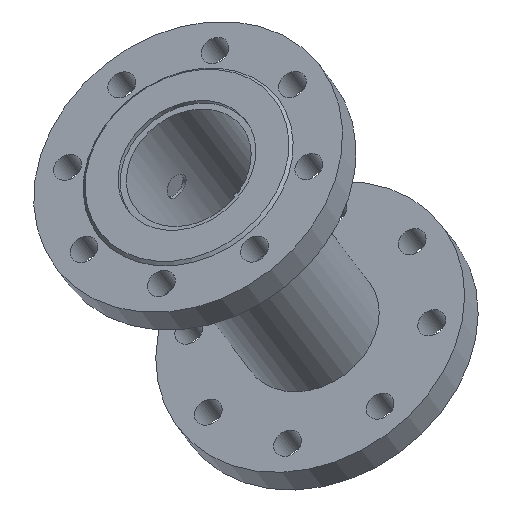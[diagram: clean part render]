
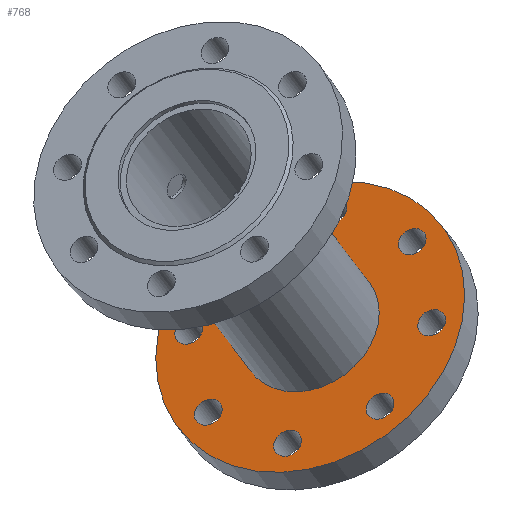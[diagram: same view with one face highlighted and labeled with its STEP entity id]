
A CAD part, isometric view. The second image highlights one B-rep face of the part: STEP entity #768.
In plain terms, the highlighted planar face has unit normal (-0.522, 0, 0.853) as drawn and (0, 0, -1) by its records, which use the part's own axes.
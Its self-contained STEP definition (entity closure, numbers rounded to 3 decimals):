
#768 = ADVANCED_FACE( '', ( #1596, #1597, #1598, #1599, #1600, #1601, #1602, #1603, #1604, #1605 ), #1606, .T. );
#1596 = FACE_BOUND( '', #5107, .T. );
#1597 = FACE_BOUND( '', #5108, .T. );
#1598 = FACE_BOUND( '', #5109, .T. );
#1599 = FACE_BOUND( '', #5110, .T. );
#1600 = FACE_BOUND( '', #5111, .T. );
#1601 = FACE_BOUND( '', #5112, .T. );
#1602 = FACE_BOUND( '', #5113, .T. );
#1603 = FACE_BOUND( '', #5114, .T. );
#1604 = FACE_BOUND( '', #5115, .T. );
#1605 = FACE_OUTER_BOUND( '', #5116, .T. );
#1606 = PLANE( '', #5117 );
#5107 = EDGE_LOOP( '', ( #7183 ) );
#5108 = EDGE_LOOP( '', ( #7184 ) );
#5109 = EDGE_LOOP( '', ( #7185 ) );
#5110 = EDGE_LOOP( '', ( #7186 ) );
#5111 = EDGE_LOOP( '', ( #7187 ) );
#5112 = EDGE_LOOP( '', ( #7188 ) );
#5113 = EDGE_LOOP( '', ( #7189 ) );
#5114 = EDGE_LOOP( '', ( #7190 ) );
#5115 = EDGE_LOOP( '', ( #7191 ) );
#5116 = EDGE_LOOP( '', ( #7192 ) );
#5117 = AXIS2_PLACEMENT_3D( '', #7193, #7194, #7195 );
#7183 = ORIENTED_EDGE( '', *, *, #8534, .F. );
#7184 = ORIENTED_EDGE( '', *, *, #8610, .F. );
#7185 = ORIENTED_EDGE( '', *, *, #8611, .F. );
#7186 = ORIENTED_EDGE( '', *, *, #8532, .F. );
#7187 = ORIENTED_EDGE( '', *, *, #8605, .F. );
#7188 = ORIENTED_EDGE( '', *, *, #8612, .F. );
#7189 = ORIENTED_EDGE( '', *, *, #8343, .F. );
#7190 = ORIENTED_EDGE( '', *, *, #8600, .F. );
#7191 = ORIENTED_EDGE( '', *, *, #8229, .T. );
#7192 = ORIENTED_EDGE( '', *, *, #8613, .F. );
#7193 = CARTESIAN_POINT( '', ( 44.65, 0., 0. ) );
#7194 = DIRECTION( '', ( 0., 0., -1. ) );
#7195 = DIRECTION( '', ( -1., 0., 0. ) );
#8229 = EDGE_CURVE( '', #9220, #9220, #9221, .T. );
#8343 = EDGE_CURVE( '', #9396, #9396, #9397, .T. );
#8532 = EDGE_CURVE( '', #9659, #9659, #9660, .T. );
#8534 = EDGE_CURVE( '', #9662, #9662, #9663, .T. );
#8600 = EDGE_CURVE( '', #9749, #9749, #9750, .T. );
#8605 = EDGE_CURVE( '', #9756, #9756, #9757, .T. );
#8610 = EDGE_CURVE( '', #9762, #9762, #9763, .T. );
#8611 = EDGE_CURVE( '', #9764, #9764, #9765, .T. );
#8612 = EDGE_CURVE( '', #9766, #9766, #9767, .T. );
#8613 = EDGE_CURVE( '', #9768, #9768, #9769, .T. );
#9220 = VERTEX_POINT( '', #10992 );
#9221 = CIRCLE( '', #10993, 44.65 );
#9396 = VERTEX_POINT( '', #11315 );
#9397 = CIRCLE( '', #11316, 9. );
#9659 = VERTEX_POINT( '', #12058 );
#9660 = CIRCLE( '', #12059, 9. );
#9662 = VERTEX_POINT( '', #12061 );
#9663 = CIRCLE( '', #12062, 9. );
#9749 = VERTEX_POINT( '', #12267 );
#9750 = CIRCLE( '', #12268, 9. );
#9756 = VERTEX_POINT( '', #12274 );
#9757 = CIRCLE( '', #12275, 9. );
#9762 = VERTEX_POINT( '', #12280 );
#9763 = CIRCLE( '', #12281, 9. );
#9764 = VERTEX_POINT( '', #12282 );
#9765 = CIRCLE( '', #12283, 9. );
#9766 = VERTEX_POINT( '', #12284 );
#9767 = CIRCLE( '', #12285, 9. );
#9768 = VERTEX_POINT( '', #12286 );
#9769 = CIRCLE( '', #12287, 100. );
#10992 = CARTESIAN_POINT( '', ( 44.65, 0., 0. ) );
#10993 = AXIS2_PLACEMENT_3D( '', #13048, #13049, #13050 );
#11315 = CARTESIAN_POINT( '', ( -9., 80., 0. ) );
#11316 = AXIS2_PLACEMENT_3D( '', #13241, #13242, #13243 );
#12058 = CARTESIAN_POINT( '', ( 47.569, -56.569, 0. ) );
#12059 = AXIS2_PLACEMENT_3D( '', #13486, #13487, #13488 );
#12061 = CARTESIAN_POINT( '', ( -89., 0., 0. ) );
#12062 = AXIS2_PLACEMENT_3D( '', #13489, #13490, #13491 );
#12267 = CARTESIAN_POINT( '', ( -65.569, 56.569, 0. ) );
#12268 = AXIS2_PLACEMENT_3D( '', #13562, #13563, #13564 );
#12274 = CARTESIAN_POINT( '', ( 71., 0., 0. ) );
#12275 = AXIS2_PLACEMENT_3D( '', #13568, #13569, #13570 );
#12280 = CARTESIAN_POINT( '', ( -65.569, -56.569, 0. ) );
#12281 = AXIS2_PLACEMENT_3D( '', #13574, #13575, #13576 );
#12282 = CARTESIAN_POINT( '', ( -9., -80., 0. ) );
#12283 = AXIS2_PLACEMENT_3D( '', #13577, #13578, #13579 );
#12284 = CARTESIAN_POINT( '', ( 47.569, 56.569, 0. ) );
#12285 = AXIS2_PLACEMENT_3D( '', #13580, #13581, #13582 );
#12286 = CARTESIAN_POINT( '', ( 100., 0., 0. ) );
#12287 = AXIS2_PLACEMENT_3D( '', #13583, #13584, #13585 );
#13048 = CARTESIAN_POINT( '', ( 0., 0., 0. ) );
#13049 = DIRECTION( '', ( 0., 0., 1. ) );
#13050 = DIRECTION( '', ( 1., 0., 0. ) );
#13241 = CARTESIAN_POINT( '', ( 0., 80., 0. ) );
#13242 = DIRECTION( '', ( 0., 0., -1. ) );
#13243 = DIRECTION( '', ( -1., 0., 0. ) );
#13486 = CARTESIAN_POINT( '', ( 56.569, -56.569, 0. ) );
#13487 = DIRECTION( '', ( 0., 0., -1. ) );
#13488 = DIRECTION( '', ( -1., 0., 0. ) );
#13489 = CARTESIAN_POINT( '', ( -80., 0., 0. ) );
#13490 = DIRECTION( '', ( 0., 0., -1. ) );
#13491 = DIRECTION( '', ( -1., 0., 0. ) );
#13562 = CARTESIAN_POINT( '', ( -56.569, 56.569, 0. ) );
#13563 = DIRECTION( '', ( 0., 0., -1. ) );
#13564 = DIRECTION( '', ( -1., 0., 0. ) );
#13568 = CARTESIAN_POINT( '', ( 80., 0., 0. ) );
#13569 = DIRECTION( '', ( 0., 0., -1. ) );
#13570 = DIRECTION( '', ( -1., 0., 0. ) );
#13574 = CARTESIAN_POINT( '', ( -56.569, -56.569, 0. ) );
#13575 = DIRECTION( '', ( 0., 0., -1. ) );
#13576 = DIRECTION( '', ( -1., 0., 0. ) );
#13577 = CARTESIAN_POINT( '', ( 0., -80., 0. ) );
#13578 = DIRECTION( '', ( 0., 0., -1. ) );
#13579 = DIRECTION( '', ( -1., 0., 0. ) );
#13580 = CARTESIAN_POINT( '', ( 56.569, 56.569, 0. ) );
#13581 = DIRECTION( '', ( 0., 0., -1. ) );
#13582 = DIRECTION( '', ( -1., 0., 0. ) );
#13583 = CARTESIAN_POINT( '', ( 0., 0., 0. ) );
#13584 = DIRECTION( '', ( 0., 0., 1. ) );
#13585 = DIRECTION( '', ( 1., 0., 0. ) );
